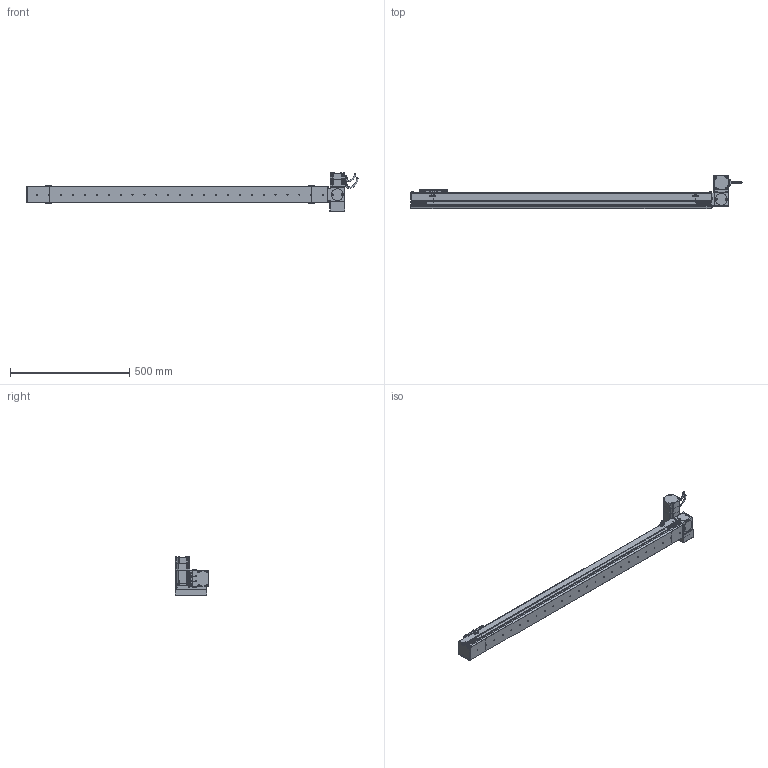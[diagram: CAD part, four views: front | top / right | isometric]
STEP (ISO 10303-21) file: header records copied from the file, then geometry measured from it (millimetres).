
FILE_DESCRIPTION (( 'STEP AP214' ), '1' );
FILE_NAME ('S07 CBN RT S1100.STEP', '2010-06-29T10:18:44', ( 'Conseil Régional Haute-Normandie' ), ( 'Conseil Régional Haute-Normandie' ), 'SwSTEP 2.0', 'SolidWorks 2010', '' );
FILE_SCHEMA (( 'AUTOMOTIVE_DESIGN' ));
Length unit declared in the file: millimetre
Products named in the file (31): vis M5 L8_Default; support chariot_Default; chariot_Default; Plaque de bout Tail_Default; Couvercle Tail_Default; Corp Tail_Default; Chariot S07_Default; vis M5 L15_Default; plaque de serrage Tail_Default; Tail S07 Tail_Default; Couvercle S07 S1100_Default; Corp S07 S1100_Default; Corp RT_Default; Head RT_Default; S07 CBN RT S1100; plaque de serrage RT_Default; Plaque de bout RT_Default; Couvercle RT_Default; Support Moteur RT_Default; Cache Support Moteur RT_Default; Rondelle de Serrage RT_Default; P2 90A_Default; P1_Default; 60BLDC90A-640_Default; Axe 60BLDC_Default; P4_Default; P3 90A_Default; VisM3_Default; Conecteur2 60BLDC_Default; Conecteur 60BLDC_Default
Assembly tree (71 placements, depth 4):
  S07 CBN RT S1100
    Tail S07 Tail_Default
      vis M5 L15_Default  x6
      Couvercle Tail_Default
      plaque de serrage Tail_Default
      Corp Tail_Default
      Plaque de bout Tail_Default
    Head RT_Default
      Rondelle de Serrage RT_Default  x3
      Corp RT_Default
      vis M5 L15_Default  x16
      plaque de serrage RT_Default
      Cache Support Moteur RT_Default
      Couvercle RT_Default
      Plaque de bout RT_Default
      Support Moteur RT_Default
      60BLDC90A-640_Default
        VisM3_Default  x12
        Conecteur 60BLDC_Default
        P1_Default
        Axe 60BLDC_Default
        P2 90A_Default
        Conecteur2 60BLDC_Default
        P4_Default
        P3 90A_Default
    Chariot S07_Default
      vis M5 L8_Default  x8
      support chariot_Default
      chariot_Default
    Corp S07 S1100_Default
      Corp S07 S1100_Default
      Couvercle S07 S1100_Default
Bounding box: 1393.2 x 141 x 162 mm (x, y, z)
Volume: 6578687.1 mm3; surface area: 803474.1 mm2
Topology: 108 solids, 108 shells, 3916 faces, 9638 edges, 6204 vertices
Faces by surface type: plane 2258, bspline 756, cylinder 691, torus 112, cone 95, sphere 4
Entity records: 153993 total; most frequent: CARTESIAN_POINT 79695, ORIENTED_EDGE 14796, DIRECTION 11091, EDGE_CURVE 7398, VERTEX_POINT 4889, LINE 4789, VECTOR 4789, EDGE_LOOP 3181
